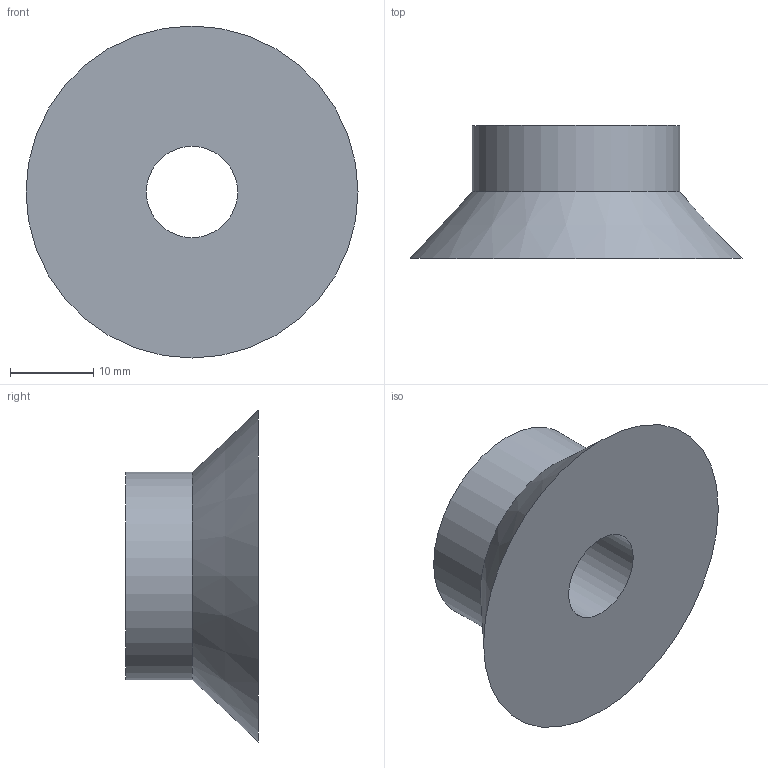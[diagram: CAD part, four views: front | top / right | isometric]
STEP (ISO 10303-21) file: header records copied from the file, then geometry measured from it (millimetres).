
FILE_DESCRIPTION((''),'2;1');
FILE_NAME('S:\Technik\Konstruktion\CAD-Daten\Kundenmodelle\126.040.016.2_Kd.stp','2010-10-06T11:51:25',('JGarcia-Martinez'),(''),'Autodesk Inventor 2009','Autodesk Inventor 2009','');
FILE_SCHEMA(('AUTOMOTIVE_DESIGN { 1 0 10303 214 1 1 1 1 }'));
Length unit declared in the file: millimetre
Products named in the file (1): 126.040.016
Bounding box: 40 x 16 x 40 mm (x, y, z)
Volume: 9160.9 mm3; surface area: 3858.3 mm2
Topology: 1 solids, 1 shells, 5 faces, 8 edges, 5 vertices
Faces by surface type: cylinder 2, plane 2, cone 1
Full cylindrical faces by diameter (mm): 11 x1, 25 x1
Entity records: 134 total; most frequent: DIRECTION 22, CARTESIAN_POINT 16, AXIS2_PLACEMENT_3D 11, ORIENTED_EDGE 10, EDGE_LOOP 10, VERTEX_POINT 5, CIRCLE 5, EDGE_CURVE 5
